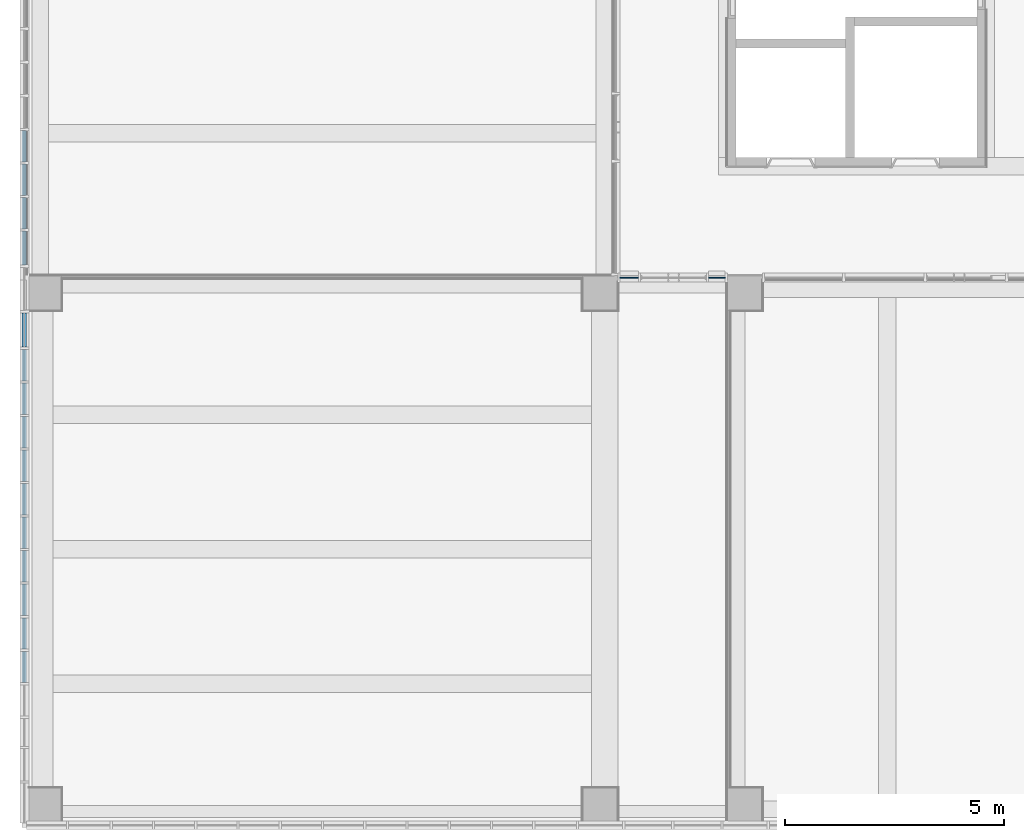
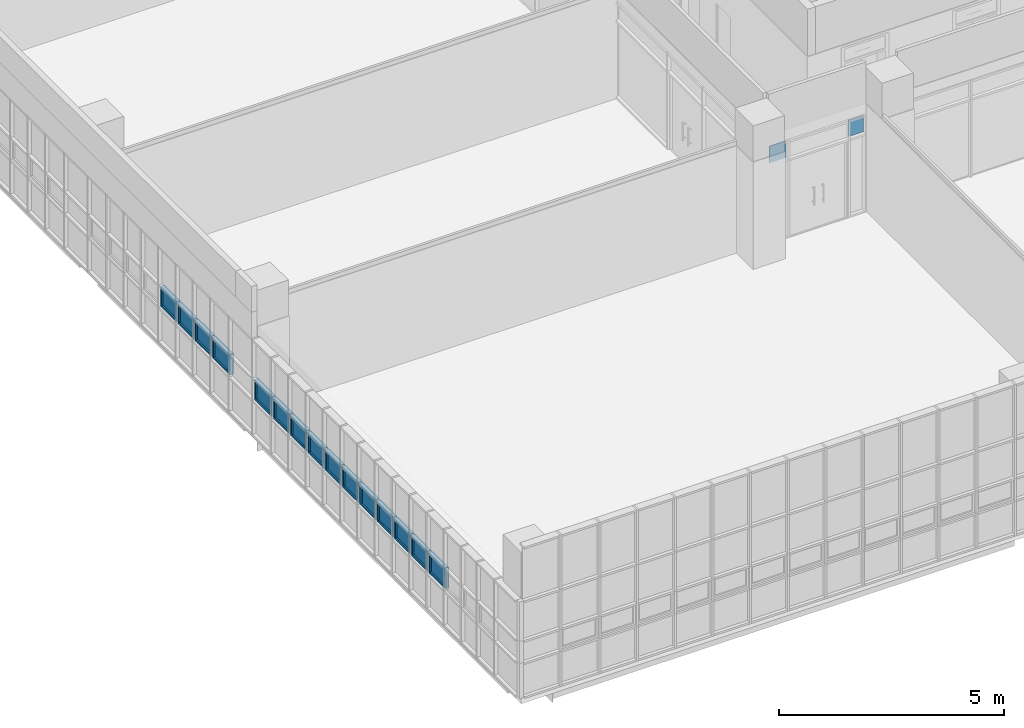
# One storey, part 38 of 76: 17 plates, 2 elements without a shape of their own.
"""IFC2X3 building model written with IfcOpenShell, lengths in millimetres."""

from ifc_helpers import new_model, entity, si_unit, converted_unit, derived_unit, direction, frame, origin, origin_2d_with_axis, place, context, subcontext, project, spatial, polyline, rectangle, outline, extrude, source, transform, mapped, material, material_list, type_object, type_shapes, element, aggregate, save


model = new_model("IFC2X3")

# Units and contexts
model_context = context("Model", 3, precision=0.01, world=origin(), true_north=direction((6.123031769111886e-17, 1.0)))
body_context = subcontext(model_context, "Body", "Model", "MODEL_VIEW")
ifc_project = project(units=[si_unit("LENGTHUNIT", "METRE", prefix="MILLI"), si_unit("AREAUNIT", "SQUARE_METRE"), si_unit("VOLUMEUNIT", "CUBIC_METRE"), converted_unit("PLANEANGLEUNIT", "DEGREE", entity("IfcRatioMeasure", 0.017453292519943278), si_unit("PLANEANGLEUNIT", "RADIAN"), dimensions=[0, 0, 0, 0, 0, 0, 0]), si_unit("MASSUNIT", "GRAM", prefix="KILO"), derived_unit("MASSDENSITYUNIT", [(si_unit("MASSUNIT", "GRAM", prefix="KILO"), 1), (si_unit("LENGTHUNIT", "METRE"), -3)]), derived_unit("MOMENTOFINERTIAUNIT", [(si_unit("LENGTHUNIT", "METRE"), 4)]), si_unit("TIMEUNIT", "SECOND"), si_unit("FREQUENCYUNIT", "HERTZ"), si_unit("THERMODYNAMICTEMPERATUREUNIT", "DEGREE_CELSIUS"), derived_unit("THERMALTRANSMITTANCEUNIT", [(si_unit("MASSUNIT", "GRAM", prefix="KILO"), 1), (si_unit("THERMODYNAMICTEMPERATUREUNIT", "KELVIN"), -1), (si_unit("TIMEUNIT", "SECOND"), -3)]), derived_unit("VOLUMETRICFLOWRATEUNIT", [(si_unit("LENGTHUNIT", "METRE"), 3), (si_unit("TIMEUNIT", "SECOND"), -1)]), derived_unit("MASSFLOWRATEUNIT", [(si_unit("MASSUNIT", "GRAM", prefix="KILO"), 1), (si_unit("TIMEUNIT", "SECOND"), -1)]), derived_unit("ROTATIONALFREQUENCYUNIT", [(si_unit("TIMEUNIT", "SECOND"), -1)]), si_unit("ELECTRICCURRENTUNIT", "AMPERE"), si_unit("ELECTRICVOLTAGEUNIT", "VOLT"), si_unit("POWERUNIT", "WATT"), si_unit("FORCEUNIT", "NEWTON", prefix="KILO"), si_unit("ILLUMINANCEUNIT", "LUX"), si_unit("LUMINOUSFLUXUNIT", "LUMEN"), si_unit("LUMINOUSINTENSITYUNIT", "CANDELA"), derived_unit("USERDEFINED", [(si_unit("MASSUNIT", "GRAM", prefix="KILO"), -1), (si_unit("LENGTHUNIT", "METRE"), -2), (si_unit("TIMEUNIT", "SECOND"), 3), (si_unit("LUMINOUSFLUXUNIT", "LUMEN"), 1)]), derived_unit("SOUNDPOWERUNIT", [(si_unit("MASSUNIT", "GRAM", prefix="KILO"), 1), (si_unit("LENGTHUNIT", "METRE"), 2), (si_unit("TIMEUNIT", "SECOND"), -3)]), derived_unit("SOUNDPRESSUREUNIT", [(si_unit("MASSUNIT", "GRAM", prefix="KILO"), 1), (si_unit("LENGTHUNIT", "METRE"), -1), (si_unit("TIMEUNIT", "SECOND"), -2)]), derived_unit("LINEARVELOCITYUNIT", [(si_unit("LENGTHUNIT", "METRE"), 1), (si_unit("TIMEUNIT", "SECOND"), -1)]), si_unit("PRESSUREUNIT", "PASCAL"), derived_unit("USERDEFINED", [(si_unit("LENGTHUNIT", "METRE"), -2), (si_unit("MASSUNIT", "GRAM", prefix="KILO"), 1), (si_unit("TIMEUNIT", "SECOND"), -2)]), derived_unit("LINEARFORCEUNIT", [(si_unit("MASSUNIT", "GRAM", prefix="KILO"), 1), (si_unit("LENGTHUNIT", "METRE"), 1), (si_unit("TIMEUNIT", "SECOND"), -2), (si_unit("LENGTHUNIT", "METRE"), -1)]), derived_unit("PLANARFORCEUNIT", [(si_unit("MASSUNIT", "GRAM", prefix="KILO"), 1), (si_unit("LENGTHUNIT", "METRE"), 1), (si_unit("TIMEUNIT", "SECOND"), -2), (si_unit("LENGTHUNIT", "METRE"), -2)])], contexts=[model_context])

# Site, building, storey
site_placement = place(None, frame((-14167.972527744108, -657.2125860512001, 0.0)))
site = spatial("IfcSite", under=ifc_project, at=site_placement, Name="Default", CompositionType="ELEMENT")
building_placement = place(site_placement, origin())
building = spatial("IfcBuilding", under=site, at=building_placement, Name="Sample Building", CompositionType="ELEMENT")
storey_placement = place(building_placement, frame((0.0, 0.0, 9300.0)))
storey = spatial("IfcBuildingStorey", under=building, at=storey_placement, Name="지상 3층", CompositionType="ELEMENT", Elevation=9300.000000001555)

# Curtain wall, plates
curtain_wall_type = type_object("IfcCurtainWallType", Name="커튼월:CW112-스테인리스 스틸 커튼월", PredefinedType="NOTDEFINED")
curtain_wall_1_placement = place(storey_placement, frame((0.0, 0.0, -9300.0)))
curtain_wall_1 = element("IfcCurtainWall", 1, at=curtain_wall_1_placement, inside=storey, type_object=curtain_wall_type, Name="커튼월:CW112-스테인리스 스틸 커튼월", ObjectType="커튼월:CW112-스테인리스 스틸 커튼월")
ifc_material_1 = material(Name="KBIMS-로이유리(코팅)")
plate_type_1 = type_object("IfcPlateType", Name="CW300-THK24.Low-e coating glass:CW300-THK24.Low-e coating glass", PredefinedType="CURTAIN_PANEL", material=ifc_material_1)
shared_shape_1 = source(origin(), body_context, "Body", "SweptSolid", [
    extrude(rectangle(XDim=24.000000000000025, YDim=376.8466492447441, at=origin_2d_with_axis()), frame((0.0, 0.0, 0.0), z_axis=(0.0, 0.0, 1.0), x_axis=(0.0, 1.0, 0.0)), (0.0, 0.0, 1.0), 445.00000000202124),
])
type_shapes(plate_type_1, [shared_shape_1])
plate_1_placement = place(curtain_wall_1_placement, frame((29829.54913907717, 13012.212307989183, 11505.0), z_axis=(0.0, 0.0, 1.0), x_axis=(-1.0, 0.0, 0.0)))
plate_1 = element("IfcPlate", 2, at=plate_1_placement, type_object=plate_type_1, material=ifc_material_1, Name="CW300-THK24.Low-e coating glass:CW300-THK24.Low-e coating glass", ObjectType="CW300-THK24.Low-e coating glass:CW300-THK24.Low-e coating glass", context=body_context, shape_type="MappedRepresentation", body=[
    mapped(shared_shape_1, transform((0.0, 0.0, 0.0), scale=1.0)),
])
plate_type_2 = type_object("IfcPlateType", Name="CW300-THK24.Low-e coating glass:CW300-THK24.Low-e coating glass", PredefinedType="CURTAIN_PANEL", material=ifc_material_1)
shared_shape_2 = source(origin(), body_context, "Body", "SweptSolid", [
    extrude(rectangle(XDim=24.000000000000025, YDim=423.1454999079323, at=origin_2d_with_axis()), frame((0.0, 0.0, 0.0), z_axis=(0.0, 0.0, 1.0), x_axis=(0.0, 1.0, 0.0)), (0.0, 0.0, 1.0), 445.00000000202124),
])
type_shapes(plate_type_2, [shared_shape_2])
plate_2_placement = place(curtain_wall_1_placement, frame((27829.553064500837, 13012.212307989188, 11505.0), z_axis=(0.0, 0.0, 1.0), x_axis=(-1.0, 0.0, 0.0)))
plate_2 = element("IfcPlate", 3, at=plate_2_placement, type_object=plate_type_2, material=ifc_material_1, Name="CW300-THK24.Low-e coating glass:CW300-THK24.Low-e coating glass", ObjectType="CW300-THK24.Low-e coating glass:CW300-THK24.Low-e coating glass", context=body_context, shape_type="MappedRepresentation", body=[
    mapped(shared_shape_2, transform((0.0, 0.0, 0.0), scale=1.0)),
])
aggregate(curtain_wall_1, [plate_1, plate_2])

curtain_wall_2_placement = place(storey_placement, frame((0.0, 0.0, -9300.0)))
curtain_wall_2 = element("IfcCurtainWall", 4, at=curtain_wall_2_placement, inside=storey, type_object=curtain_wall_type, Name="커튼월:CW112-스테인리스 스틸 커튼월", ObjectType="커튼월:CW112-스테인리스 스틸 커튼월")
ifc_material_2 = material(Name="KBIMS-유리")
ifc_material_3 = material(Name="KBIMS-알루미늄")
ifc_material_list_1 = material_list([ifc_material_2, ifc_material_3])
ifc_material_list_2 = material_list([ifc_material_2, ifc_material_3])
plate_type_3 = type_object("IfcPlateType", Name="CW410-프로젝트 창:CW410-프로젝트 창 (하부개폐)", PredefinedType="CURTAIN_PANEL", material=ifc_material_list_2)
shared_shape_3 = source(origin(), body_context, "Body", "SweptSolid", [
    extrude(rectangle(XDim=676.0000000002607, YDim=23.999999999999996, at=origin_2d_with_axis()), frame((0.0, -0.04999999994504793, 50.0), z_axis=(0.0, 0.0, 1.0), x_axis=(-1.0, 0.0, 0.0)), (0.0, 0.0, 1.0), 450.0000000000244),
    extrude(outline(polyline([(-388.0, -275.0), (388.0, -275.0), (388.0, 275.0), (-388.0, 275.0), (-388.0, -275.0)]), holes=[polyline([(-338.0, -225.0), (-338.0, 225.0), (338.0, 225.0), (338.0, -225.0), (-338.0, -225.0)])]), frame((0.0, -50.04999999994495, 275.0), z_axis=(0.0, 1.0, 0.0), x_axis=(1.0, 0.0, 0.0)), (0.0, 0.0, 1.0), 99.99999999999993),
])
type_shapes(plate_type_3, [shared_shape_3])
plate_3_placement = place(curtain_wall_2_placement, frame((14018.587904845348, 13684.817707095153, 10355.0), z_axis=(0.0, 0.0, 1.0), x_axis=(0.0, -1.0, 0.0)))
plate_3 = element("IfcPlate", 5, at=plate_3_placement, type_object=plate_type_3, material=ifc_material_list_1, Name="CW410-프로젝트 창:CW410-프로젝트 창 (하부개폐)", ObjectType="CW410-프로젝트 창:CW410-프로젝트 창 (하부개폐)", context=body_context, shape_type="MappedRepresentation", body=[
    mapped(shared_shape_3, transform((0.0, 0.0, 0.0), scale=1.0)),
])
ifc_material_list_3 = material_list([ifc_material_2, ifc_material_3])
ifc_material_list_4 = material_list([ifc_material_2, ifc_material_3])
plate_type_4 = type_object("IfcPlateType", Name="CW410-프로젝트 창:CW410-프로젝트 창 (하부개폐)", PredefinedType="CURTAIN_PANEL", material=ifc_material_list_4)
shared_shape_4 = source(origin(), body_context, "Body", "SweptSolid", [
    extrude(rectangle(XDim=616.0000000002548, YDim=23.999999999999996, at=origin_2d_with_axis()), frame((0.0, -0.04999999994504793, 50.0), z_axis=(0.0, 0.0, 1.0), x_axis=(-1.0, 0.0, 0.0)), (0.0, 0.0, 1.0), 450.0000000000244),
    extrude(outline(polyline([(-358.0, -275.0), (358.0, -275.0), (358.0, 275.0), (-358.0, 275.0), (-358.0, -275.0)]), holes=[polyline([(-308.0, -225.0), (-308.0, 225.0), (308.0, 225.0), (308.0, -225.0), (-308.0, -225.0)])]), frame((0.0, -50.04999999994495, 275.0), z_axis=(0.0, 1.0, 0.0), x_axis=(1.0, 0.0, 0.0)), (0.0, 0.0, 1.0), 99.99999999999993),
])
type_shapes(plate_type_4, [shared_shape_4])
plate_4_placement = place(curtain_wall_2_placement, frame((14018.58790484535, 16012.817707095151, 10355.0), z_axis=(0.0, 0.0, 1.0), x_axis=(0.0, -1.0, 0.0)))
plate_4 = element("IfcPlate", 6, at=plate_4_placement, type_object=plate_type_4, material=ifc_material_list_3, Name="CW410-프로젝트 창:CW410-프로젝트 창 (하부개폐)", ObjectType="CW410-프로젝트 창:CW410-프로젝트 창 (하부개폐)", context=body_context, shape_type="MappedRepresentation", body=[
    mapped(shared_shape_4, transform((0.0, 0.0, 0.0), scale=1.0)),
])
ifc_material_list_5 = material_list([ifc_material_2, ifc_material_3])
plate_5_placement = place(curtain_wall_2_placement, frame((14018.58790484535, 15246.817707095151, 10355.0), z_axis=(0.0, 0.0, 1.0), x_axis=(0.0, -1.0, 0.0)))
plate_5 = element("IfcPlate", 7, at=plate_5_placement, type_object=plate_type_4, material=ifc_material_list_5, Name="CW410-프로젝트 창:CW410-프로젝트 창 (하부개폐)", ObjectType="CW410-프로젝트 창:CW410-프로젝트 창 (하부개폐)", context=body_context, shape_type="MappedRepresentation", body=[
    mapped(shared_shape_4, transform((0.0, 0.0, 0.0), scale=1.0)),
])
ifc_material_list_6 = material_list([ifc_material_2, ifc_material_3])
plate_6_placement = place(curtain_wall_2_placement, frame((14018.587904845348, 14480.817707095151, 10355.0), z_axis=(0.0, 0.0, 1.0), x_axis=(0.0, -1.0, 0.0)))
plate_6 = element("IfcPlate", 8, at=plate_6_placement, type_object=plate_type_4, material=ifc_material_list_6, Name="CW410-프로젝트 창:CW410-프로젝트 창 (하부개폐)", ObjectType="CW410-프로젝트 창:CW410-프로젝트 창 (하부개폐)", context=body_context, shape_type="MappedRepresentation", body=[
    mapped(shared_shape_4, transform((0.0, 0.0, 0.0), scale=1.0)),
])
ifc_material_list_7 = material_list([ifc_material_2, ifc_material_3])
plate_7_placement = place(curtain_wall_2_placement, frame((14018.587904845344, 11012.81770709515, 10355.0), z_axis=(0.0, 0.0, 1.0), x_axis=(0.0, -1.0, 0.0)))
plate_7 = element("IfcPlate", 9, at=plate_7_placement, type_object=plate_type_4, material=ifc_material_list_7, Name="CW410-프로젝트 창:CW410-프로젝트 창 (하부개폐)", ObjectType="CW410-프로젝트 창:CW410-프로젝트 창 (하부개폐)", context=body_context, shape_type="MappedRepresentation", body=[
    mapped(shared_shape_4, transform((0.0, 0.0, 0.0), scale=1.0)),
])
ifc_material_list_8 = material_list([ifc_material_2, ifc_material_3])
plate_8_placement = place(curtain_wall_2_placement, frame((14018.587904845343, 10246.817707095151, 10355.0), z_axis=(0.0, 0.0, 1.0), x_axis=(0.0, -1.0, 0.0)))
plate_8 = element("IfcPlate", 10, at=plate_8_placement, type_object=plate_type_4, material=ifc_material_list_8, Name="CW410-프로젝트 창:CW410-프로젝트 창 (하부개폐)", ObjectType="CW410-프로젝트 창:CW410-프로젝트 창 (하부개폐)", context=body_context, shape_type="MappedRepresentation", body=[
    mapped(shared_shape_4, transform((0.0, 0.0, 0.0), scale=1.0)),
])
ifc_material_list_9 = material_list([ifc_material_2, ifc_material_3])
plate_9_placement = place(curtain_wall_2_placement, frame((14018.587904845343, 9480.817707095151, 10355.0), z_axis=(0.0, 0.0, 1.0), x_axis=(0.0, -1.0, 0.0)))
plate_9 = element("IfcPlate", 11, at=plate_9_placement, type_object=plate_type_4, material=ifc_material_list_9, Name="CW410-프로젝트 창:CW410-프로젝트 창 (하부개폐)", ObjectType="CW410-프로젝트 창:CW410-프로젝트 창 (하부개폐)", context=body_context, shape_type="MappedRepresentation", body=[
    mapped(shared_shape_4, transform((0.0, 0.0, 0.0), scale=1.0)),
])
ifc_material_list_10 = material_list([ifc_material_2, ifc_material_3])
plate_10_placement = place(curtain_wall_2_placement, frame((14018.587904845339, 8714.817707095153, 10355.0), z_axis=(0.0, 0.0, 1.0), x_axis=(0.0, -1.0, 0.0)))
plate_10 = element("IfcPlate", 12, at=plate_10_placement, type_object=plate_type_4, material=ifc_material_list_10, Name="CW410-프로젝트 창:CW410-프로젝트 창 (하부개폐)", ObjectType="CW410-프로젝트 창:CW410-프로젝트 창 (하부개폐)", context=body_context, shape_type="MappedRepresentation", body=[
    mapped(shared_shape_4, transform((0.0, 0.0, 0.0), scale=1.0)),
])
ifc_material_list_11 = material_list([ifc_material_2, ifc_material_3])
plate_11_placement = place(curtain_wall_2_placement, frame((14018.587904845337, 7948.817707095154, 10355.0), z_axis=(0.0, 0.0, 1.0), x_axis=(0.0, -1.0, 0.0)))
plate_11 = element("IfcPlate", 13, at=plate_11_placement, type_object=plate_type_4, material=ifc_material_list_11, Name="CW410-프로젝트 창:CW410-프로젝트 창 (하부개폐)", ObjectType="CW410-프로젝트 창:CW410-프로젝트 창 (하부개폐)", context=body_context, shape_type="MappedRepresentation", body=[
    mapped(shared_shape_4, transform((0.0, 0.0, 0.0), scale=1.0)),
])
ifc_material_list_12 = material_list([ifc_material_2, ifc_material_3])
plate_12_placement = place(curtain_wall_2_placement, frame((14018.587904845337, 7182.817707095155, 10355.0), z_axis=(0.0, 0.0, 1.0), x_axis=(0.0, -1.0, 0.0)))
plate_12 = element("IfcPlate", 14, at=plate_12_placement, type_object=plate_type_4, material=ifc_material_list_12, Name="CW410-프로젝트 창:CW410-프로젝트 창 (하부개폐)", ObjectType="CW410-프로젝트 창:CW410-프로젝트 창 (하부개폐)", context=body_context, shape_type="MappedRepresentation", body=[
    mapped(shared_shape_4, transform((0.0, 0.0, 0.0), scale=1.0)),
])
ifc_material_list_13 = material_list([ifc_material_2, ifc_material_3])
plate_13_placement = place(curtain_wall_2_placement, frame((14018.587904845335, 6416.817707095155, 10355.0), z_axis=(0.0, 0.0, 1.0), x_axis=(0.0, -1.0, 0.0)))
plate_13 = element("IfcPlate", 15, at=plate_13_placement, type_object=plate_type_4, material=ifc_material_list_13, Name="CW410-프로젝트 창:CW410-프로젝트 창 (하부개폐)", ObjectType="CW410-프로젝트 창:CW410-프로젝트 창 (하부개폐)", context=body_context, shape_type="MappedRepresentation", body=[
    mapped(shared_shape_4, transform((0.0, 0.0, 0.0), scale=1.0)),
])
ifc_material_list_14 = material_list([ifc_material_2, ifc_material_3])
plate_14_placement = place(curtain_wall_2_placement, frame((14018.587904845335, 5650.817707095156, 10355.0), z_axis=(0.0, 0.0, 1.0), x_axis=(0.0, -1.0, 0.0)))
plate_14 = element("IfcPlate", 16, at=plate_14_placement, type_object=plate_type_4, material=ifc_material_list_14, Name="CW410-프로젝트 창:CW410-프로젝트 창 (하부개폐)", ObjectType="CW410-프로젝트 창:CW410-프로젝트 창 (하부개폐)", context=body_context, shape_type="MappedRepresentation", body=[
    mapped(shared_shape_4, transform((0.0, 0.0, 0.0), scale=1.0)),
])
ifc_material_list_15 = material_list([ifc_material_2, ifc_material_3])
plate_15_placement = place(curtain_wall_2_placement, frame((14018.587904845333, 4884.817707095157, 10355.0), z_axis=(0.0, 0.0, 1.0), x_axis=(0.0, -1.0, 0.0)))
plate_15 = element("IfcPlate", 17, at=plate_15_placement, type_object=plate_type_4, material=ifc_material_list_15, Name="CW410-프로젝트 창:CW410-프로젝트 창 (하부개폐)", ObjectType="CW410-프로젝트 창:CW410-프로젝트 창 (하부개폐)", context=body_context, shape_type="MappedRepresentation", body=[
    mapped(shared_shape_4, transform((0.0, 0.0, 0.0), scale=1.0)),
])
ifc_material_list_16 = material_list([ifc_material_2, ifc_material_3])
plate_16_placement = place(curtain_wall_2_placement, frame((14018.587904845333, 4118.817707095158, 10355.0), z_axis=(0.0, 0.0, 1.0), x_axis=(0.0, -1.0, 0.0)))
plate_16 = element("IfcPlate", 18, at=plate_16_placement, type_object=plate_type_4, material=ifc_material_list_16, Name="CW410-프로젝트 창:CW410-프로젝트 창 (하부개폐)", ObjectType="CW410-프로젝트 창:CW410-프로젝트 창 (하부개폐)", context=body_context, shape_type="MappedRepresentation", body=[
    mapped(shared_shape_4, transform((0.0, 0.0, 0.0), scale=1.0)),
])
ifc_material_list_17 = material_list([ifc_material_2, ifc_material_3])
ifc_material_list_18 = material_list([ifc_material_2, ifc_material_3])
plate_type_5 = type_object("IfcPlateType", Name="CW410-프로젝트 창:CW410-프로젝트 창 (하부개폐)", PredefinedType="CURTAIN_PANEL", material=ifc_material_list_18)
shared_shape_5 = source(origin(), body_context, "Body", "SweptSolid", [
    extrude(rectangle(XDim=686.0000000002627, YDim=23.999999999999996, at=origin_2d_with_axis()), frame((0.0, -0.04999999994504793, 50.0), z_axis=(0.0, 0.0, 1.0), x_axis=(-1.0, 0.0, 0.0)), (0.0, 0.0, 1.0), 450.0000000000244),
    extrude(outline(polyline([(-393.0, -275.0), (393.0, -275.0), (393.0, 275.0), (-393.0, 275.0), (-393.0, -275.0)]), holes=[polyline([(-343.0, -225.0), (-343.0, 225.0), (343.0, 225.0), (343.0, -225.0), (-343.0, -225.0)])]), frame((0.0, -50.04999999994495, 275.0), z_axis=(0.0, 1.0, 0.0), x_axis=(1.0, 0.0, 0.0)), (0.0, 0.0, 1.0), 99.99999999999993),
])
type_shapes(plate_type_5, [shared_shape_5])
plate_17_placement = place(curtain_wall_2_placement, frame((14018.587904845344, 11813.817707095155, 10355.0), z_axis=(0.0, 0.0, 1.0), x_axis=(0.0, -1.0, 0.0)))
plate_17 = element("IfcPlate", 19, at=plate_17_placement, type_object=plate_type_5, material=ifc_material_list_17, Name="CW410-프로젝트 창:CW410-프로젝트 창 (하부개폐)", ObjectType="CW410-프로젝트 창:CW410-프로젝트 창 (하부개폐)", context=body_context, shape_type="MappedRepresentation", body=[
    mapped(shared_shape_5, transform((0.0, 0.0, 0.0), scale=1.0)),
])
aggregate(curtain_wall_2, [plate_4, plate_5, plate_6, plate_3, plate_17, plate_7, plate_8, plate_9, plate_10, plate_11, plate_12, plate_13, plate_14, plate_15, plate_16])

save(model, "model.ifc")
